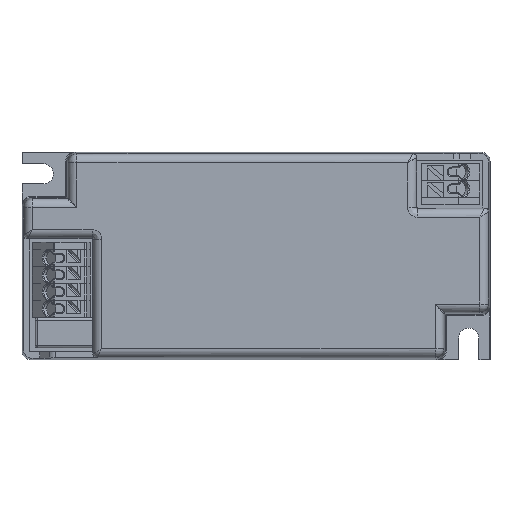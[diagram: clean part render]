
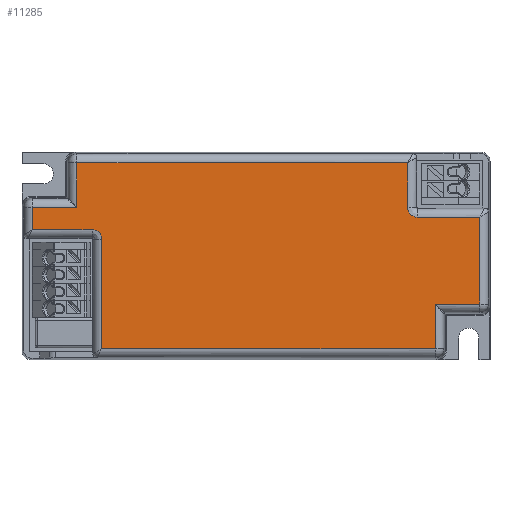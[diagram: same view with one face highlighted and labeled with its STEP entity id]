
A CAD part, top view. The second image highlights one B-rep face of the part: STEP entity #11285.
In plain terms, the highlighted planar face has unit normal (0, 0, 1).
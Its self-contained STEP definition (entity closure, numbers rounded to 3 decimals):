
#35 = CARTESIAN_POINT ( 'NONE',  ( 33.397, 7.997, 22. ) ) ;
#55 = CARTESIAN_POINT ( 'NONE',  ( -46.247, 5.403, 22. ) ) ;
#368 = CARTESIAN_POINT ( 'NONE',  ( 48.4, 5.403, 22. ) ) ;
#626 = CARTESIAN_POINT ( 'NONE',  ( 48.4, 9.972, 22. ) ) ;
#656 = ORIENTED_EDGE ( 'NONE', *, *, #7446, .T. ) ;
#672 = EDGE_CURVE ( 'NONE', #3088, #15575, #13878, .T. ) ;
#790 = ORIENTED_EDGE ( 'NONE', *, *, #3064, .T. ) ;
#918 = DIRECTION ( 'NONE',  ( -1., 0., 0. ) ) ;
#994 = VERTEX_POINT ( 'NONE', #8277 ) ;
#1213 = LINE ( 'NONE', #5065, #4064 ) ;
#1254 = CARTESIAN_POINT ( 'NONE',  ( -37.047, 21.425, 22. ) ) ;
#1382 = LINE ( 'NONE', #11217, #11810 ) ;
#1491 = CARTESIAN_POINT ( 'NONE',  ( -31.897, 4.575, 22. ) ) ;
#1500 = VERTEX_POINT ( 'NONE', #35 ) ;
#1519 = EDGE_CURVE ( 'NONE', #7659, #1500, #11461, .T. ) ;
#1955 = LINE ( 'NONE', #14272, #8638 ) ;
#2196 = CARTESIAN_POINT ( 'NONE',  ( 32.225, 7.997, 22. ) ) ;
#2326 = LINE ( 'NONE', #7192, #13532 ) ;
#2339 = LINE ( 'NONE', #12070, #11832 ) ;
#2340 = CARTESIAN_POINT ( 'NONE',  ( 46.247, 7.997, 22. ) ) ;
#2375 = CARTESIAN_POINT ( 'NONE',  ( -31.897, 21.425, 22. ) ) ;
#2412 = DIRECTION ( 'NONE',  ( 0., -1., 0. ) ) ;
#2519 = DIRECTION ( 'NONE',  ( 1., 0., 0. ) ) ;
#2527 = EDGE_CURVE ( 'NONE', #12421, #9535, #1955, .T. ) ;
#2578 = VECTOR ( 'NONE', #7533, 1000. ) ;
#2681 = EDGE_CURVE ( 'NONE', #8709, #5608, #1213, .T. ) ;
#2706 = CARTESIAN_POINT ( 'NONE',  ( 48.4, 7.997, 22. ) ) ;
#2891 = CARTESIAN_POINT ( 'NONE',  ( -33.897, 5.403, 22. ) ) ;
#3064 = EDGE_CURVE ( 'NONE', #9535, #14226, #10792, .T. ) ;
#3088 = VERTEX_POINT ( 'NONE', #55 ) ;
#3181 = EDGE_CURVE ( 'NONE', #15575, #11263, #11659, .T. ) ;
#3279 = PLANE ( 'NONE',  #7187 ) ;
#3453 = EDGE_CURVE ( 'NONE', #9891, #8709, #8739, .T. ) ;
#3501 = LINE ( 'NONE', #12270, #5710 ) ;
#3741 = CARTESIAN_POINT ( 'NONE',  ( 48.4, 21.425, 22. ) ) ;
#4061 = ORIENTED_EDGE ( 'NONE', *, *, #672, .T. ) ;
#4064 = VECTOR ( 'NONE', #2519, 1000. ) ;
#4316 = LINE ( 'NONE', #626, #5095 ) ;
#4481 = FACE_OUTER_BOUND ( 'NONE', #11414, .T. ) ;
#4641 = DIRECTION ( 'NONE',  ( 0., 0., -1. ) ) ;
#5065 = CARTESIAN_POINT ( 'NONE',  ( 48.4, -9.972, 22. ) ) ;
#5095 = VECTOR ( 'NONE', #5765, 1000. ) ;
#5110 = ORIENTED_EDGE ( 'NONE', *, *, #2681, .T. ) ;
#5261 = DIRECTION ( 'NONE',  ( 1., 0., 0. ) ) ;
#5308 = VERTEX_POINT ( 'NONE', #13779 ) ;
#5440 = CARTESIAN_POINT ( 'NONE',  ( -31.897, 3.403, 22. ) ) ;
#5608 = VERTEX_POINT ( 'NONE', #8528 ) ;
#5710 = VECTOR ( 'NONE', #5917, 1000. ) ;
#5765 = DIRECTION ( 'NONE',  ( -1., 0., 0. ) ) ;
#5785 = CARTESIAN_POINT ( 'NONE',  ( -46.247, 9.972, 22. ) ) ;
#5917 = DIRECTION ( 'NONE',  ( 1., 0., 0. ) ) ;
#5934 = ORIENTED_EDGE ( 'NONE', *, *, #14860, .T. ) ;
#6479 = VECTOR ( 'NONE', #7252, 1000. ) ;
#6536 = CARTESIAN_POINT ( 'NONE',  ( 31.397, 19.272, 22. ) ) ;
#6553 = ORIENTED_EDGE ( 'NONE', *, *, #3181, .T. ) ;
#6728 =( BOUNDED_CURVE ( )  B_SPLINE_CURVE ( 3, ( #15616, #2196, #7227, #9562 ),
 .UNSPECIFIED., .F., .F. ) 
 B_SPLINE_CURVE_WITH_KNOTS ( ( 4, 4 ),
 ( 2.356, 3.927 ),
 .UNSPECIFIED. ) 
 CURVE ( )  GEOMETRIC_REPRESENTATION_ITEM ( )  RATIONAL_B_SPLINE_CURVE ( ( 1., 0.805, 0.805, 1. ) ) 
 REPRESENTATION_ITEM ( '' )  );
#6842 = ORIENTED_EDGE ( 'NONE', *, *, #12314, .T. ) ;
#6942 = ORIENTED_EDGE ( 'NONE', *, *, #12644, .T. ) ;
#7187 = AXIS2_PLACEMENT_3D ( 'NONE', #3741, #4641, #15586 ) ;
#7189 = ORIENTED_EDGE ( 'NONE', *, *, #15474, .T. ) ;
#7192 = CARTESIAN_POINT ( 'NONE',  ( 31.397, 21.425, 22. ) ) ;
#7227 = CARTESIAN_POINT ( 'NONE',  ( 31.397, 8.825, 22. ) ) ;
#7252 = DIRECTION ( 'NONE',  ( 0., -1., 0. ) ) ;
#7341 = DIRECTION ( 'NONE',  ( 0., 1., 0. ) ) ;
#7414 = CARTESIAN_POINT ( 'NONE',  ( -31.897, 3.403, 22. ) ) ;
#7446 = EDGE_CURVE ( 'NONE', #1500, #5308, #6728, .T. ) ;
#7461 = DIRECTION ( 'NONE',  ( 0., 1., 0. ) ) ;
#7533 = DIRECTION ( 'NONE',  ( 0., 1., 0. ) ) ;
#7630 = VERTEX_POINT ( 'NONE', #5785 ) ;
#7659 = VERTEX_POINT ( 'NONE', #2340 ) ;
#8277 = CARTESIAN_POINT ( 'NONE',  ( -31.897, -19.272, 22. ) ) ;
#8359 = ORIENTED_EDGE ( 'NONE', *, *, #1519, .T. ) ;
#8489 = DIRECTION ( 'NONE',  ( 0., -1., 0. ) ) ;
#8528 = CARTESIAN_POINT ( 'NONE',  ( 46.247, -9.972, 22. ) ) ;
#8638 = VECTOR ( 'NONE', #918, 1000. ) ;
#8669 = VECTOR ( 'NONE', #2412, 1000. ) ;
#8709 = VERTEX_POINT ( 'NONE', #14470 ) ;
#8739 = LINE ( 'NONE', #13595, #2578 ) ;
#9535 = VERTEX_POINT ( 'NONE', #14593 ) ;
#9562 = CARTESIAN_POINT ( 'NONE',  ( 31.397, 9.997, 22. ) ) ;
#9598 = ORIENTED_EDGE ( 'NONE', *, *, #11369, .T. ) ;
#9891 = VERTEX_POINT ( 'NONE', #12457 ) ;
#9986 = ORIENTED_EDGE ( 'NONE', *, *, #2527, .T. ) ;
#10063 = CARTESIAN_POINT ( 'NONE',  ( -33.897, 5.403, 22. ) ) ;
#10396 = EDGE_CURVE ( 'NONE', #14226, #7630, #4316, .T. ) ;
#10792 = LINE ( 'NONE', #1254, #8669 ) ;
#11217 = CARTESIAN_POINT ( 'NONE',  ( 46.247, 21.425, 22. ) ) ;
#11263 = VERTEX_POINT ( 'NONE', #5440 ) ;
#11285 = ADVANCED_FACE ( 'NONE', ( #4481 ), #3279, .F. ) ;
#11369 = EDGE_CURVE ( 'NONE', #5308, #12421, #2326, .T. ) ;
#11414 = EDGE_LOOP ( 'NONE', ( #8359, #656, #9598, #9986, #790, #13688, #7189, #4061, #6553, #6942, #6842, #15316, #5110, #5934 ) ) ;
#11461 = LINE ( 'NONE', #2706, #13682 ) ;
#11659 =( BOUNDED_CURVE ( )  B_SPLINE_CURVE ( 3, ( #10063, #12285, #1491, #7414 ),
 .UNSPECIFIED., .F., .F. ) 
 B_SPLINE_CURVE_WITH_KNOTS ( ( 4, 4 ),
 ( 2.356, 3.927 ),
 .UNSPECIFIED. ) 
 CURVE ( )  GEOMETRIC_REPRESENTATION_ITEM ( )  RATIONAL_B_SPLINE_CURVE ( ( 1., 0.805, 0.805, 1. ) ) 
 REPRESENTATION_ITEM ( '' )  );
#11810 = VECTOR ( 'NONE', #7461, 1000. ) ;
#11832 = VECTOR ( 'NONE', #8489, 1000. ) ;
#12070 = CARTESIAN_POINT ( 'NONE',  ( -46.247, 21.425, 22. ) ) ;
#12270 = CARTESIAN_POINT ( 'NONE',  ( 48.4, -19.272, 22. ) ) ;
#12279 = CARTESIAN_POINT ( 'NONE',  ( -37.047, 9.972, 22. ) ) ;
#12285 = CARTESIAN_POINT ( 'NONE',  ( -32.725, 5.403, 22. ) ) ;
#12314 = EDGE_CURVE ( 'NONE', #994, #9891, #3501, .T. ) ;
#12376 = VECTOR ( 'NONE', #5261, 1000. ) ;
#12421 = VERTEX_POINT ( 'NONE', #6536 ) ;
#12457 = CARTESIAN_POINT ( 'NONE',  ( 37.047, -19.272, 22. ) ) ;
#12644 = EDGE_CURVE ( 'NONE', #11263, #994, #14674, .T. ) ;
#13532 = VECTOR ( 'NONE', #7341, 1000. ) ;
#13595 = CARTESIAN_POINT ( 'NONE',  ( 37.047, 21.425, 22. ) ) ;
#13682 = VECTOR ( 'NONE', #15073, 1000. ) ;
#13688 = ORIENTED_EDGE ( 'NONE', *, *, #10396, .T. ) ;
#13779 = CARTESIAN_POINT ( 'NONE',  ( 31.397, 9.997, 22. ) ) ;
#13878 = LINE ( 'NONE', #368, #12376 ) ;
#14226 = VERTEX_POINT ( 'NONE', #12279 ) ;
#14272 = CARTESIAN_POINT ( 'NONE',  ( 48.4, 19.272, 22. ) ) ;
#14470 = CARTESIAN_POINT ( 'NONE',  ( 37.047, -9.972, 22. ) ) ;
#14593 = CARTESIAN_POINT ( 'NONE',  ( -37.047, 19.272, 22. ) ) ;
#14674 = LINE ( 'NONE', #2375, #6479 ) ;
#14860 = EDGE_CURVE ( 'NONE', #5608, #7659, #1382, .T. ) ;
#15073 = DIRECTION ( 'NONE',  ( -1., 0., 0. ) ) ;
#15316 = ORIENTED_EDGE ( 'NONE', *, *, #3453, .T. ) ;
#15474 = EDGE_CURVE ( 'NONE', #7630, #3088, #2339, .T. ) ;
#15575 = VERTEX_POINT ( 'NONE', #2891 ) ;
#15586 = DIRECTION ( 'NONE',  ( 1., 0., 0. ) ) ;
#15616 = CARTESIAN_POINT ( 'NONE',  ( 33.397, 7.997, 22. ) ) ;
